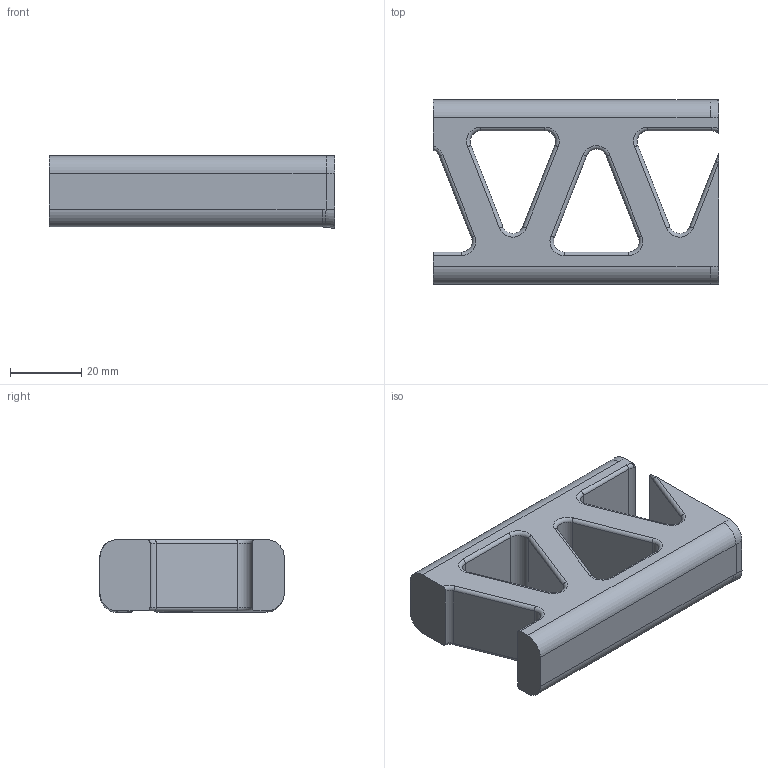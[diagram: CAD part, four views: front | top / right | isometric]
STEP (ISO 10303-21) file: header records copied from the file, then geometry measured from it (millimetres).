
FILE_DESCRIPTION (( 'STEP AP214' ), '1' );
FILE_NAME ('Brk_Rev_2_simple cut.STEP', '2025-02-03T12:13:05', ( '' ), ( '' ), 'SwSTEP 2.0', 'SolidWorks 2024', '' );
FILE_SCHEMA (( 'AUTOMOTIVE_DESIGN' ));
Length unit declared in the file: millimetre
Products named in the file (1): Brk_Rev_2_simple cut
Bounding box: 80 x 51.7 x 20.42 mm (x, y, z)
Volume: 51101.2 mm3; surface area: 14762.2 mm2
Topology: 1 solids, 1 shells, 93 faces, 222 edges, 131 vertices
Faces by surface type: cylinder 41, torus 26, plane 19, bspline 7
Entity records: 4022 total; most frequent: CARTESIAN_POINT 810, DIRECTION 484, ORIENTED_EDGE 444, EDGE_CURVE 222, AXIS2_PLACEMENT_3D 196, VERTEX_POINT 131, CIRCLE 109, EDGE_LOOP 97
